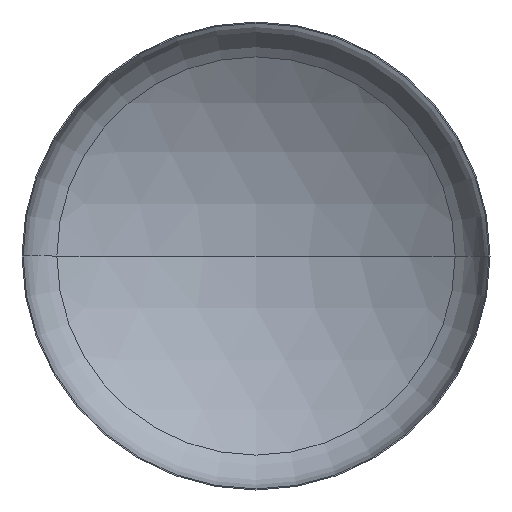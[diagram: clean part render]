
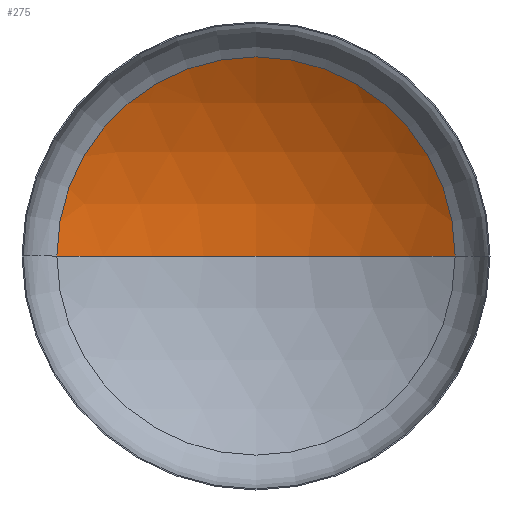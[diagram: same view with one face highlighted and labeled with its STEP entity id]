
A CAD part, front view. The second image highlights one B-rep face of the part: STEP entity #275.
In plain terms, the highlighted spherical face has radius 5600 mm.
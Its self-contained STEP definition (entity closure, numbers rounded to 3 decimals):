
#11 = ORIENTED_EDGE ( 'NONE', *, *, #156, .T. ) ;
#15 = EDGE_LOOP ( 'NONE', ( #65, #25, #11 ) ) ;
#25 = ORIENTED_EDGE ( 'NONE', *, *, #161, .T. ) ;
#28 = VERTEX_POINT ( 'NONE', #248 ) ;
#31 = DIRECTION ( 'NONE',  ( -1., 0., 0. ) ) ;
#38 = CARTESIAN_POINT ( 'NONE',  ( 0., -3772.687, 0. ) ) ;
#44 = CIRCLE ( 'NONE', #103, 2978.407 ) ;
#50 = AXIS2_PLACEMENT_3D ( 'NONE', #38, #390, #105 ) ;
#65 = ORIENTED_EDGE ( 'NONE', *, *, #162, .F. ) ;
#71 = VERTEX_POINT ( 'NONE', #265 ) ;
#93 = AXIS2_PLACEMENT_3D ( 'NONE', #236, #268, #368 ) ;
#98 = AXIS2_PLACEMENT_3D ( 'NONE', #183, #354, #31 ) ;
#103 = AXIS2_PLACEMENT_3D ( 'NONE', #206, #203, #394 ) ;
#105 = DIRECTION ( 'NONE',  ( -1., 0., 0. ) ) ;
#123 = VERTEX_POINT ( 'NONE', #318 ) ;
#156 = EDGE_CURVE ( 'NONE', #71, #123, #44, .T. ) ;
#161 = EDGE_CURVE ( 'NONE', #28, #71, #382, .T. ) ;
#162 = EDGE_CURVE ( 'NONE', #28, #123, #273, .T. ) ;
#183 = CARTESIAN_POINT ( 'NONE',  ( 0., -3772.687, 0. ) ) ;
#203 = DIRECTION ( 'NONE',  ( 0., -1., 0. ) ) ;
#206 = CARTESIAN_POINT ( 'NONE',  ( 0., 969.58, 0. ) ) ;
#236 = CARTESIAN_POINT ( 'NONE',  ( 0., -3772.687, 0. ) ) ;
#244 = FACE_OUTER_BOUND ( 'NONE', #15, .T. ) ;
#248 = CARTESIAN_POINT ( 'NONE',  ( 0., 1827.313, 0. ) ) ;
#265 = CARTESIAN_POINT ( 'NONE',  ( 2978.407, 969.58, 0. ) ) ;
#268 = DIRECTION ( 'NONE',  ( 0., 0., 1. ) ) ;
#273 = CIRCLE ( 'NONE', #93, 5600. ) ;
#275 = ADVANCED_FACE ( 'NONE', ( #244 ), #319, .F. ) ;
#318 = CARTESIAN_POINT ( 'NONE',  ( -2978.407, 969.58, 0. ) ) ;
#319 = SPHERICAL_SURFACE ( 'NONE', #50, 5600. ) ;
#354 = DIRECTION ( 'NONE',  ( 0., 0., -1. ) ) ;
#368 = DIRECTION ( 'NONE',  ( 1., 0., 0. ) ) ;
#382 = CIRCLE ( 'NONE', #98, 5600. ) ;
#390 = DIRECTION ( 'NONE',  ( 0., 0., -1. ) ) ;
#394 = DIRECTION ( 'NONE',  ( 1., 0., 0. ) ) ;
